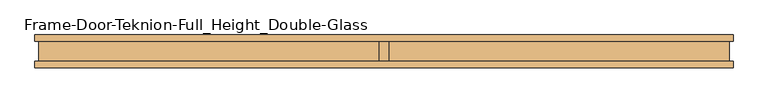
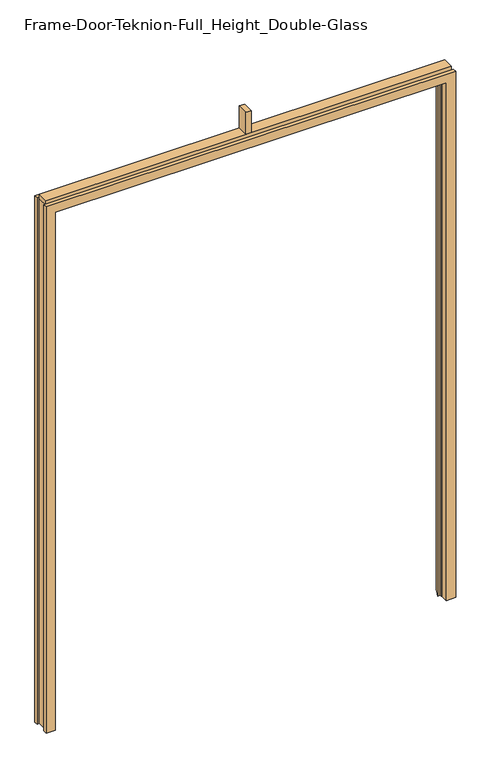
"""IFC4 building model written with IfcOpenShell, lengths in millimetres: door geometry, Frame-Door-Teknion-Full_Height_Double-Glass : FPFJS."""

from ifc_helpers import new_model, si_unit, frame, origin, place, context, project, spatial, polyline, outline, extrude, faceted_brep, source, transform, mapped, element, save


def frame_door_teknion_full_height_double_glass_6b4566d7(model_context):
    return source(origin(), model_context, "Body", "SolidModel", [
        faceted_brep([(-1015.7843565, -50.038, 0.0), (-1063.8157565, -50.038, 0.0), (-1063.8157565, -30.7719997, 0.0), (-1052.8101562, -30.7719997, 0.0), (-1052.8101562, 30.7719997, 0.0), (-1063.8157565, 30.7719997, 0.0), (-1063.8157565, 50.038, 0.0), (-1021.9054518, 50.038, 0.0), (-999.4583342, -0.7133435, 0.0), (-1012.3807565, -0.7133435, 0.0), (-1012.3807565, -9.6287435, 0.0), (-1015.7843565, -9.6287435, 0.0), (-1015.7843565, -9.6287435, 2842.4886), (-1015.7843565, -50.038, 2842.4886), (-1012.3807565, -9.6287435, 2839.085), (1012.3807565, -9.6287435, 2839.085), (1012.3807565, -9.6287435, 0.0), (1015.7843565, -9.6287435, 0.0), (1015.7843565, -9.6287435, 2842.4886), (-1012.3807565, -0.7133435, 2839.085), (-999.4583342, -0.7133435, 2826.1625776), (999.4583342, -0.7133435, 2826.1625776), (999.4583342, -0.7133435, 0.0), (1012.3807565, -0.7133435, 0.0), (1012.3807565, -0.7133435, 2839.085), (-1021.9054518, 50.038, 2848.6096953), (-1063.8157565, 50.038, 2890.52), (1063.8157565, 50.038, 2890.52), (1063.8157565, 50.038, 0.0), (1021.9054518, 50.038, 0.0), (1021.9054518, 50.038, 2848.6096953), (-1063.8157565, 30.7719997, 2890.52), (-1052.8101562, 30.7719997, 2879.5143997), (1052.8101563, 30.7719997, 2879.5143997), (1052.8101563, 30.7719997, 0.0), (1063.8157565, 30.7719997, 0.0), (1063.8157565, 30.7719997, 2890.52), (-1052.8101562, -30.7719997, 2879.5143997), (-1063.8157565, -30.7719997, 2890.52), (1063.8157565, -30.7719997, 2890.52), (1063.8157565, -30.7719997, 0.0), (1052.8101563, -30.7719997, 0.0), (1052.8101563, -30.7719997, 2879.5143997), (-1063.8157565, -50.038, 2890.52), (1015.7843565, -50.038, 2842.4886), (1015.7843565, -50.038, 0.0), (1063.8157565, -50.038, 0.0), (1063.8157565, -50.038, 2890.52)], [[[0, 1, 2, 3, 4, 5, 6, 7, 8, 9, 10, 11]], [[11, 12, 13, 0]], [[10, 14, 15, 16, 17, 18, 12, 11]], [[9, 19, 14, 10]], [[8, 20, 21, 22, 23, 24, 19, 9]], [[7, 25, 20, 8]], [[6, 26, 27, 28, 29, 30, 25, 7]], [[5, 31, 26, 6]], [[4, 32, 33, 34, 35, 36, 31, 5]], [[3, 37, 32, 4]], [[2, 38, 39, 40, 41, 42, 37, 3]], [[1, 43, 38, 2]], [[0, 13, 44, 45, 46, 47, 43, 1]], [[18, 17, 45, 44]], [[45, 17, 16, 23, 22, 29, 28, 35, 34, 41, 40, 46]], [[24, 23, 16, 15]], [[30, 29, 22, 21]], [[36, 35, 28, 27]], [[42, 41, 34, 33]], [[47, 46, 40, 39]], [[12, 18, 44, 13]], [[19, 24, 15, 14]], [[25, 30, 21, 20]], [[31, 36, 27, 26]], [[37, 42, 33, 32]], [[43, 47, 39, 38]]]),
        extrude(outline(polyline([(-1052.8101562, 29.21), (1052.8101563, 29.21), (1052.8101563, -29.21), (-1052.8101562, -29.21), (-1052.8101562, 29.21)])), frame((0.0, 0.0, 2879.725), z_axis=(0.0, 0.0, 1.0), x_axis=(1.0, 0.0, 0.0)), (0.0, 0.0, 1.0), 27.94),
        extrude(outline(polyline([(-13.9898437, 28.971875), (13.9898438, 28.971875), (13.9898438, -28.971875), (-13.9898437, -28.971875), (-13.9898437, 28.971875)])), frame((0.0, 0.0, 2907.665), z_axis=(0.0, 0.0, 1.0), x_axis=(1.0, 0.0, 0.0)), (0.0, 0.0, 1.0), 121.285),
    ])


if __name__ == "__main__":
    model = new_model("IFC4")
    model_context = context("Model", 3, world=origin())
    ifc_project = project(units=[si_unit("LENGTHUNIT", "METRE", prefix="MILLI")], contexts=[model_context])
    site = spatial("IfcSite", under=ifc_project)
    building = spatial("IfcBuilding", under=site)
    placement = place(None, origin())
    frame_door_teknion_full_height_double_glass_shape = frame_door_teknion_full_height_double_glass_6b4566d7(model_context)
    element("IfcDoor", 1, ObjectType="Frame-Door-Teknion-Full_Height_Double-Glass : FPFJS", at=placement, inside=building, context=model_context, shape_type="MappedRepresentation", body=[
        mapped(frame_door_teknion_full_height_double_glass_shape, transform((0.0, 0.0, 0.0), x_axis=(1.0, 0.0, 0.0), y_axis=(0.0, 1.0, 0.0), z_axis=(0.0, 0.0, 1.0))),
    ])
    save(model, "model.ifc")
